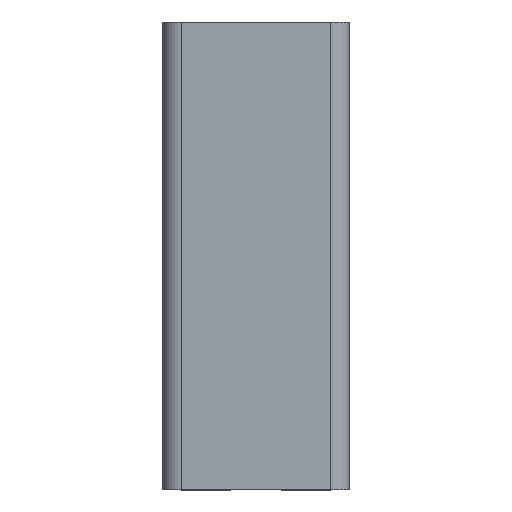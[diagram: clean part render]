
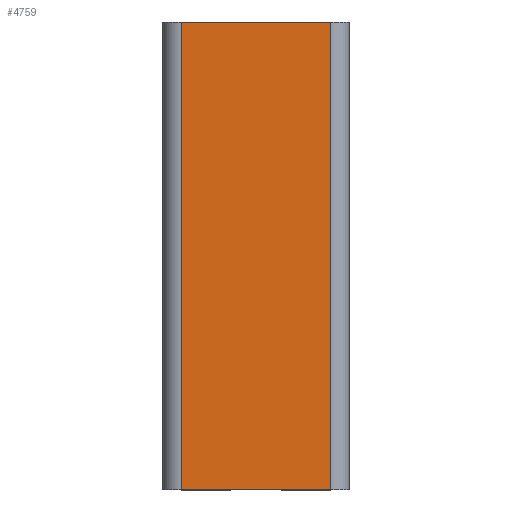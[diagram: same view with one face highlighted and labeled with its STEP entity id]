
A CAD part, top view. The second image highlights one B-rep face of the part: STEP entity #4759.
In plain terms, the highlighted planar face has unit normal (0, 0, 1).
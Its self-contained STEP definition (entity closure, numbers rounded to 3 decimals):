
#22 = CARTESIAN_POINT ( 'NONE',  ( 16., 50., 20. ) ) ;
#83 = ORIENTED_EDGE ( 'NONE', *, *, #108, .F. ) ;
#108 = EDGE_CURVE ( 'NONE', #2418, #2851, #612, .T. ) ;
#199 = LINE ( 'NONE', #2910, #1425 ) ;
#368 = VECTOR ( 'NONE', #2033, 1000. ) ;
#387 = DIRECTION ( 'NONE',  ( 1., 0., 0. ) ) ;
#612 = LINE ( 'NONE', #2159, #5078 ) ;
#636 = DIRECTION ( 'NONE',  ( 0., -1., 0. ) ) ;
#819 = EDGE_CURVE ( 'NONE', #3086, #1204, #1267, .T. ) ;
#1204 = VERTEX_POINT ( 'NONE', #3190 ) ;
#1267 = LINE ( 'NONE', #2833, #368 ) ;
#1425 = VECTOR ( 'NONE', #2960, 1000. ) ;
#1564 = PLANE ( 'NONE',  #2786 ) ;
#1973 = DIRECTION ( 'NONE',  ( 0., 0., -1. ) ) ;
#2033 = DIRECTION ( 'NONE',  ( 0., -1., 0. ) ) ;
#2159 = CARTESIAN_POINT ( 'NONE',  ( 16., 50., 20. ) ) ;
#2336 = FACE_OUTER_BOUND ( 'NONE', #3066, .T. ) ;
#2418 = VERTEX_POINT ( 'NONE', #22 ) ;
#2786 = AXIS2_PLACEMENT_3D ( 'NONE', #3912, #1973, #3549 ) ;
#2833 = CARTESIAN_POINT ( 'NONE',  ( -16., 50., 20. ) ) ;
#2851 = VERTEX_POINT ( 'NONE', #4369 ) ;
#2910 = CARTESIAN_POINT ( 'NONE',  ( -16., 50., 20. ) ) ;
#2960 = DIRECTION ( 'NONE',  ( 1., 0., 0. ) ) ;
#3035 = EDGE_CURVE ( 'NONE', #1204, #2851, #3095, .T. ) ;
#3066 = EDGE_LOOP ( 'NONE', ( #3654, #83, #4778, #3315 ) ) ;
#3086 = VERTEX_POINT ( 'NONE', #3126 ) ;
#3095 = LINE ( 'NONE', #3174, #3897 ) ;
#3126 = CARTESIAN_POINT ( 'NONE',  ( -16., 50., 20. ) ) ;
#3174 = CARTESIAN_POINT ( 'NONE',  ( -16., -50., 20. ) ) ;
#3190 = CARTESIAN_POINT ( 'NONE',  ( -16., -50., 20. ) ) ;
#3201 = EDGE_CURVE ( 'NONE', #3086, #2418, #199, .T. ) ;
#3315 = ORIENTED_EDGE ( 'NONE', *, *, #819, .T. ) ;
#3549 = DIRECTION ( 'NONE',  ( -1., 0., 0. ) ) ;
#3654 = ORIENTED_EDGE ( 'NONE', *, *, #3035, .T. ) ;
#3897 = VECTOR ( 'NONE', #387, 1000. ) ;
#3912 = CARTESIAN_POINT ( 'NONE',  ( -16., 50., 20. ) ) ;
#4369 = CARTESIAN_POINT ( 'NONE',  ( 16., -50., 20. ) ) ;
#4759 = ADVANCED_FACE ( 'NONE', ( #2336 ), #1564, .F. ) ;
#4778 = ORIENTED_EDGE ( 'NONE', *, *, #3201, .F. ) ;
#5078 = VECTOR ( 'NONE', #636, 1000. ) ;
